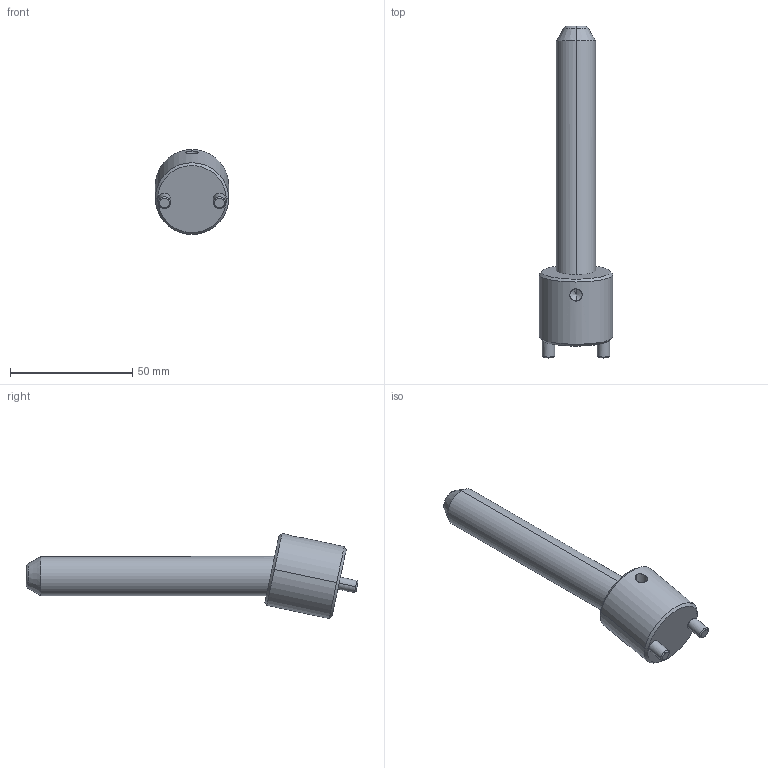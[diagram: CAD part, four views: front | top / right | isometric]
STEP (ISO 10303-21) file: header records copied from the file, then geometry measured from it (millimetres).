
FILE_DESCRIPTION(('CATIA V5 STEP Exchange'),'2;1');
FILE_NAME('C:\Users\Raffaele\Desktop\3D BOLEX\3D FILES CF BOLEX\19-INCLINED ASSEMBLY REF_CI\CI1216100.stp','2019-06-21T14:03:02+00:00',('none'),('none'),'CATIA Version 5 Release 20 GA (IN-10)','CATIA V5 STEP AP203','none');
FILE_SCHEMA(('CONFIG_CONTROL_DESIGN'));
Length unit declared in the file: millimetre
Products named in the file (1): CI1216100
Assembly tree (2 placements, depth 2):
  CI1216100
    #58
    #578
Bounding box: 30 x 135.76 x 34.75 mm (x, y, z)
Volume: 39349.8 mm3; surface area: 11970.3 mm2
Topology: 2 solids, 2 shells, 39 faces, 82 edges, 47 vertices
Faces by surface type: cone 14, cylinder 14, plane 7, torus 4
Entity records: 1458 total; most frequent: CARTESIAN_POINT 597, ORIENTED_EDGE 160, DIRECTION 146, EDGE_CURVE 80, AXIS2_PLACEMENT_3D 73, VERTEX_POINT 47, EDGE_LOOP 43, ADVANCED_FACE 39
